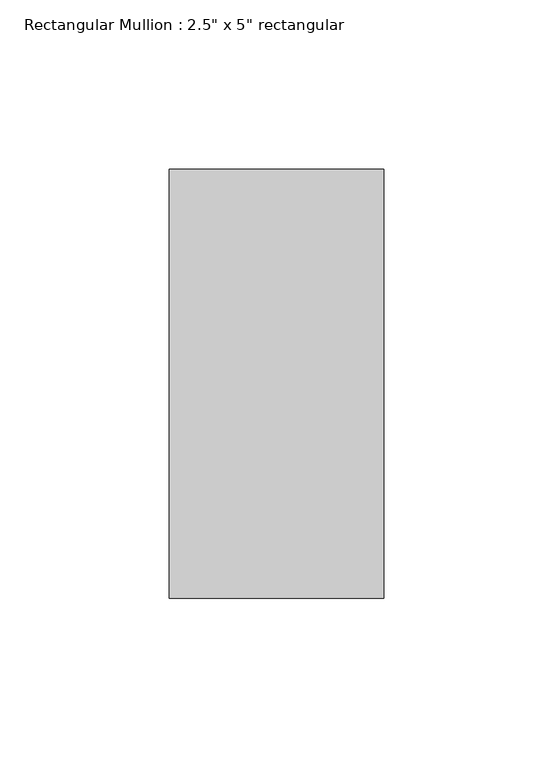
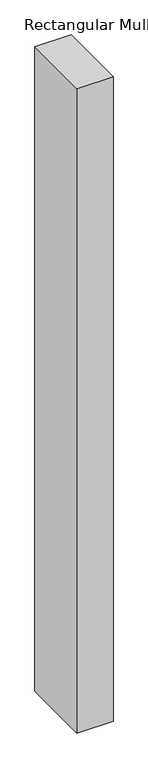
"""IFC4 building model written with IfcOpenShell, lengths in millimetres: member geometry."""

from ifc_helpers import new_model, si_unit, frame, origin, place, context, project, spatial, polyline, outline, extrude, source, transform, mapped, element, save


def member_af2b9a79(model_context):
    return source(origin(), model_context, "Body", "SweptSolid", [
        extrude(outline(polyline([(0.0, 50.8), (0.0, -76.2), (-63.5, -76.2), (-63.5, 50.8), (0.0, 50.8)])), frame((0.0, 0.0, -1193.00625), z_axis=(0.0, 0.0, 1.0), x_axis=(1.0, 0.0, 0.0)), (0.0, 0.0, 1.0), 1193.00625),
    ])


if __name__ == "__main__":
    model = new_model("IFC4")
    model_context = context("Model", 3, world=origin())
    ifc_project = project(units=[si_unit("LENGTHUNIT", "METRE", prefix="MILLI")], contexts=[model_context])
    site = spatial("IfcSite", under=ifc_project)
    building = spatial("IfcBuilding", under=site)
    placement = place(None, origin())
    member_shape = member_af2b9a79(model_context)
    element("IfcMember", 1, ObjectType="Rectangular Mullion : 2.5\" x 5\" rectangular", at=placement, inside=building, context=model_context, shape_type="MappedRepresentation", body=[
        mapped(member_shape, transform((0.0, 0.0, 0.0), x_axis=(1.0, 0.0, 0.0), y_axis=(0.0, 1.0, 0.0), z_axis=(0.0, 0.0, 1.0))),
    ])
    save(model, "model.ifc")
